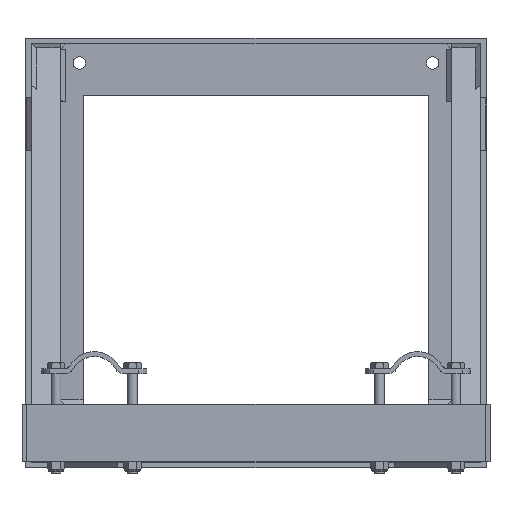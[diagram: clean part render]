
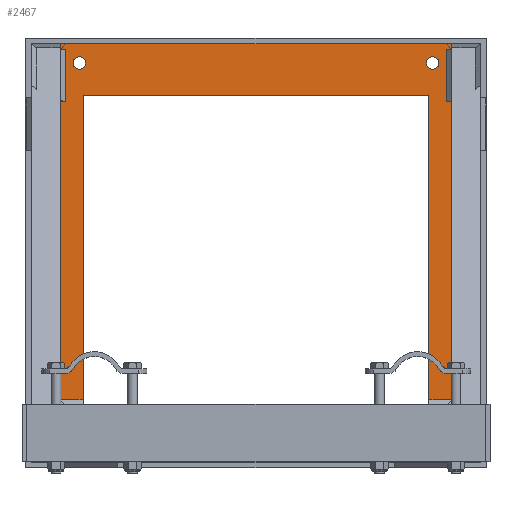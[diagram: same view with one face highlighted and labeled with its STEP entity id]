
A CAD part, top view. The second image highlights one B-rep face of the part: STEP entity #2467.
In plain terms, the highlighted planar face has unit normal (0, 0, 1).
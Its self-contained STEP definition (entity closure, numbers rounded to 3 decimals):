
#1920=DIRECTION('',(-1.,0.,0.));
#1921=VECTOR('',#1920,470.);
#1922=CARTESIAN_POINT('',(235.,219.,6.));
#1923=LINE('',#1922,#1921);
#1928=DIRECTION('',(0.,1.,0.));
#1929=VECTOR('',#1928,438.);
#1930=CARTESIAN_POINT('',(235.,-219.,6.));
#1931=LINE('',#1930,#1929);
#1940=DIRECTION('',(1.,0.,0.));
#1941=VECTOR('',#1940,470.);
#1942=CARTESIAN_POINT('',(-235.,-219.,6.));
#1943=LINE('',#1942,#1941);
#1968=DIRECTION('',(0.,-1.,0.));
#1969=VECTOR('',#1968,438.);
#1970=CARTESIAN_POINT('',(-235.,219.,6.));
#1971=LINE('',#1970,#1969);
#1972=DIRECTION('',(-1.,0.,0.));
#1973=VECTOR('',#1972,362.);
#1974=CARTESIAN_POINT('',(181.,165.,6.));
#1975=LINE('',#1974,#1973);
#1976=DIRECTION('',(0.,-1.,0.));
#1977=VECTOR('',#1976,330.);
#1978=CARTESIAN_POINT('',(-181.,165.,6.));
#1979=LINE('',#1978,#1977);
#1980=DIRECTION('',(1.,0.,0.));
#1981=VECTOR('',#1980,362.);
#1982=CARTESIAN_POINT('',(-181.,-165.,6.));
#1983=LINE('',#1982,#1981);
#1984=DIRECTION('',(0.,1.,0.));
#1985=VECTOR('',#1984,330.);
#1986=CARTESIAN_POINT('',(181.,-165.,6.));
#1987=LINE('',#1986,#1985);
#1988=CARTESIAN_POINT('',(-125.,-199.,6.));
#1989=DIRECTION('',(0.,0.,1.));
#1990=DIRECTION('',(1.,0.,0.));
#1991=AXIS2_PLACEMENT_3D('',#1988,#1989,#1990);
#1993=CARTESIAN_POINT('',(-125.,-199.,6.));
#1994=DIRECTION('',(0.,0.,1.));
#1995=DIRECTION('',(-1.,0.,0.));
#1996=AXIS2_PLACEMENT_3D('',#1993,#1994,#1995);
#1998=CARTESIAN_POINT('',(125.,-199.,6.));
#1999=DIRECTION('',(0.,0.,1.));
#2000=DIRECTION('',(1.,0.,0.));
#2001=AXIS2_PLACEMENT_3D('',#1998,#1999,#2000);
#2003=CARTESIAN_POINT('',(125.,-199.,6.));
#2004=DIRECTION('',(0.,0.,1.));
#2005=DIRECTION('',(-1.,0.,0.));
#2006=AXIS2_PLACEMENT_3D('',#2003,#2004,#2005);
#2008=CARTESIAN_POINT('',(-185.,199.,6.));
#2009=DIRECTION('',(0.,0.,1.));
#2010=DIRECTION('',(1.,0.,0.));
#2011=AXIS2_PLACEMENT_3D('',#2008,#2009,#2010);
#2013=CARTESIAN_POINT('',(-185.,199.,6.));
#2014=DIRECTION('',(0.,0.,1.));
#2015=DIRECTION('',(-1.,0.,0.));
#2016=AXIS2_PLACEMENT_3D('',#2013,#2014,#2015);
#2018=CARTESIAN_POINT('',(185.,199.,6.));
#2019=DIRECTION('',(0.,0.,1.));
#2020=DIRECTION('',(1.,0.,0.));
#2021=AXIS2_PLACEMENT_3D('',#2018,#2019,#2020);
#2023=CARTESIAN_POINT('',(185.,199.,6.));
#2024=DIRECTION('',(0.,0.,1.));
#2025=DIRECTION('',(-1.,0.,0.));
#2026=AXIS2_PLACEMENT_3D('',#2023,#2024,#2025);
#2169=CARTESIAN_POINT('',(181.,165.,6.));
#2171=VERTEX_POINT('',#2169);
#2172=CARTESIAN_POINT('',(235.,219.,6.));
#2174=VERTEX_POINT('',#2172);
#2181=CARTESIAN_POINT('',(-181.,165.,6.));
#2183=VERTEX_POINT('',#2181);
#2184=CARTESIAN_POINT('',(-235.,219.,6.));
#2186=VERTEX_POINT('',#2184);
#2193=CARTESIAN_POINT('',(-181.,-165.,6.));
#2195=VERTEX_POINT('',#2193);
#2196=CARTESIAN_POINT('',(-235.,-219.,6.));
#2198=VERTEX_POINT('',#2196);
#2205=CARTESIAN_POINT('',(181.,-165.,6.));
#2207=VERTEX_POINT('',#2205);
#2208=CARTESIAN_POINT('',(235.,-219.,6.));
#2210=VERTEX_POINT('',#2208);
#2228=CARTESIAN_POINT('',(-118.5,-199.,6.));
#2229=CARTESIAN_POINT('',(-131.5,-199.,6.));
#2230=VERTEX_POINT('',#2228);
#2231=VERTEX_POINT('',#2229);
#2232=CARTESIAN_POINT('',(131.5,-199.,6.));
#2233=CARTESIAN_POINT('',(118.5,-199.,6.));
#2234=VERTEX_POINT('',#2232);
#2235=VERTEX_POINT('',#2233);
#2236=CARTESIAN_POINT('',(-178.5,199.,6.));
#2237=CARTESIAN_POINT('',(-191.5,199.,6.));
#2238=VERTEX_POINT('',#2236);
#2239=VERTEX_POINT('',#2237);
#2240=CARTESIAN_POINT('',(191.5,199.,6.));
#2241=CARTESIAN_POINT('',(178.5,199.,6.));
#2242=VERTEX_POINT('',#2240);
#2243=VERTEX_POINT('',#2241);
#2422=CARTESIAN_POINT('',(241.,165.,6.));
#2423=DIRECTION('',(0.,0.,1.));
#2424=DIRECTION('',(0.,1.,0.));
#2425=AXIS2_PLACEMENT_3D('',#2422,#2423,#2424);
#2426=PLANE('',#2425);
#2427=ORIENTED_EDGE('',*,*,#2376,.F.);
#2428=ORIENTED_EDGE('',*,*,#2390,.F.);
#2429=ORIENTED_EDGE('',*,*,#2415,.F.);
#2430=ORIENTED_EDGE('',*,*,#2361,.F.);
#2431=EDGE_LOOP('',(#2427,#2428,#2429,#2430));
#2432=FACE_OUTER_BOUND('',#2431,.F.);
#2434=ORIENTED_EDGE('',*,*,#2433,.T.);
#2436=ORIENTED_EDGE('',*,*,#2435,.T.);
#2438=ORIENTED_EDGE('',*,*,#2437,.T.);
#2440=ORIENTED_EDGE('',*,*,#2439,.T.);
#2441=EDGE_LOOP('',(#2434,#2436,#2438,#2440));
#2442=FACE_BOUND('',#2441,.F.);
#2444=ORIENTED_EDGE('',*,*,#2443,.T.);
#2446=ORIENTED_EDGE('',*,*,#2445,.T.);
#2447=EDGE_LOOP('',(#2444,#2446));
#2448=FACE_BOUND('',#2447,.F.);
#2450=ORIENTED_EDGE('',*,*,#2449,.T.);
#2452=ORIENTED_EDGE('',*,*,#2451,.T.);
#2453=EDGE_LOOP('',(#2450,#2452));
#2454=FACE_BOUND('',#2453,.F.);
#2456=ORIENTED_EDGE('',*,*,#2455,.T.);
#2458=ORIENTED_EDGE('',*,*,#2457,.T.);
#2459=EDGE_LOOP('',(#2456,#2458));
#2460=FACE_BOUND('',#2459,.F.);
#2462=ORIENTED_EDGE('',*,*,#2461,.T.);
#2464=ORIENTED_EDGE('',*,*,#2463,.T.);
#2465=EDGE_LOOP('',(#2462,#2464));
#2466=FACE_BOUND('',#2465,.F.);
#2467=ADVANCED_FACE('',(#2432,#2442,#2448,#2454,#2460,#2466),#2426,.T.);
#1992=CIRCLE('',#1991,6.5);
#1997=CIRCLE('',#1996,6.5);
#2002=CIRCLE('',#2001,6.5);
#2007=CIRCLE('',#2006,6.5);
#2012=CIRCLE('',#2011,6.5);
#2017=CIRCLE('',#2016,6.5);
#2022=CIRCLE('',#2021,6.5);
#2027=CIRCLE('',#2026,6.5);
#2361=EDGE_CURVE('',#2174,#2186,#1923,.T.);
#2376=EDGE_CURVE('',#2210,#2174,#1931,.T.);
#2390=EDGE_CURVE('',#2198,#2210,#1943,.T.);
#2415=EDGE_CURVE('',#2186,#2198,#1971,.T.);
#2433=EDGE_CURVE('',#2171,#2183,#1975,.T.);
#2435=EDGE_CURVE('',#2183,#2195,#1979,.T.);
#2437=EDGE_CURVE('',#2195,#2207,#1983,.T.);
#2439=EDGE_CURVE('',#2207,#2171,#1987,.T.);
#2443=EDGE_CURVE('',#2230,#2231,#1992,.T.);
#2445=EDGE_CURVE('',#2231,#2230,#1997,.T.);
#2449=EDGE_CURVE('',#2234,#2235,#2002,.T.);
#2451=EDGE_CURVE('',#2235,#2234,#2007,.T.);
#2455=EDGE_CURVE('',#2238,#2239,#2012,.T.);
#2457=EDGE_CURVE('',#2239,#2238,#2017,.T.);
#2461=EDGE_CURVE('',#2242,#2243,#2022,.T.);
#2463=EDGE_CURVE('',#2243,#2242,#2027,.T.);
